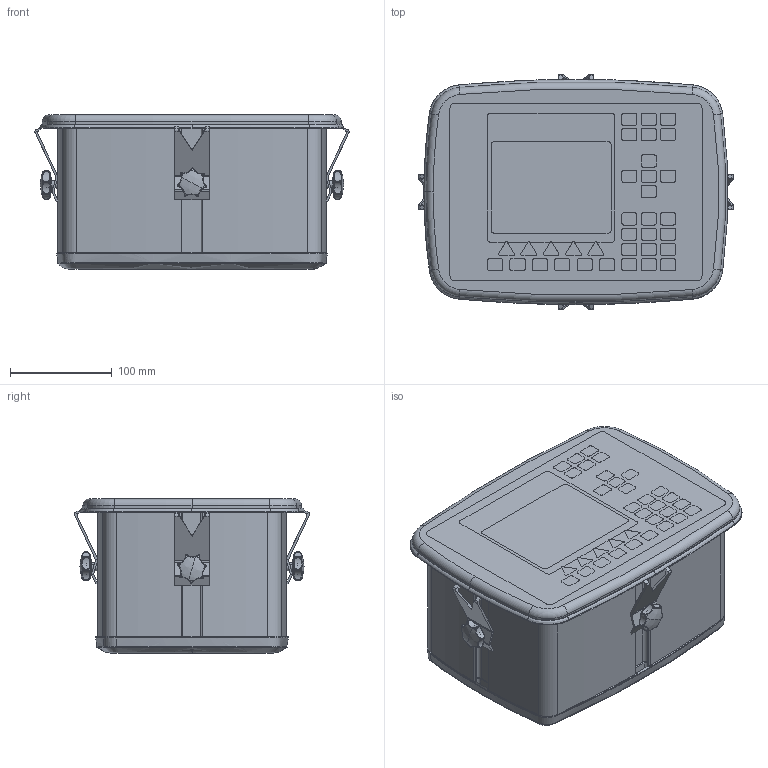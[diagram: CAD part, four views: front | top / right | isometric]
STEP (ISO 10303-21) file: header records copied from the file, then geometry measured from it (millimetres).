
FILE_DESCRIPTION (( 'STEP AP214' ), '1' );
FILE_NAME ('G4-PM.STEP', '2020-11-26T17:27:45', ( '' ), ( '' ), 'SwSTEP 2.0', 'SolidWorks 2020', '' );
FILE_SCHEMA (( 'AUTOMOTIVE_DESIGN' ));
Length unit declared in the file: millimetre
Products named in the file (10): G4-PM Front Panel Gasket; G4-PM Bracket holder; G4-PM Back; G4-PM; G4-PM Front Panel edge; G4-PM Bracket; G4-PM Sleeve; G4-PM Front Panel front; Stjärnvred M8; G4-PM Back Panel new
Assembly tree (18 placements, depth 2):
  G4-PM
    G4-PM Front Panel front
    G4-PM Front Panel edge
    G4-PM Sleeve
    G4-PM Front Panel Gasket
    G4-PM Back
    G4-PM Back Panel new
    G4-PM Bracket  x4
    G4-PM Bracket holder  x4
    Stjärnvred M8  x4
Bounding box: 309.17 x 231.18 x 151.99 mm (x, y, z)
Volume: 968201.2 mm3; surface area: 698997 mm2
Topology: 17 solids, 19 shells, 1600 faces, 4320 edges, 2806 vertices
Faces by surface type: plane 648, cylinder 570, bspline 214, torus 118, cone 42, sphere 8
Entity records: 70697 total; most frequent: CARTESIAN_POINT 34600, ORIENTED_EDGE 7028, DIRECTION 6406, EDGE_CURVE 3522, AXIS2_PLACEMENT_3D 2334, VERTEX_POINT 2305, VECTOR 1738, LINE 1738
